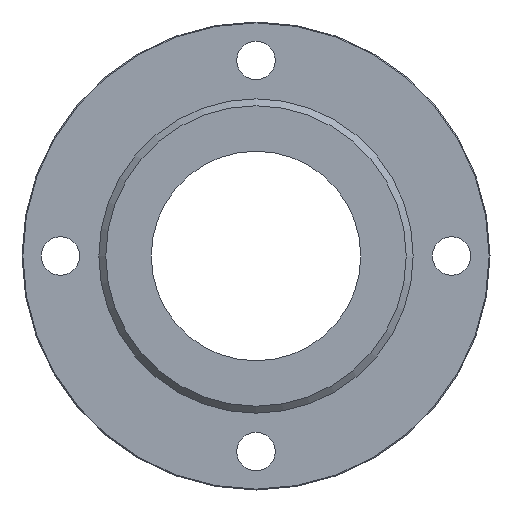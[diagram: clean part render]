
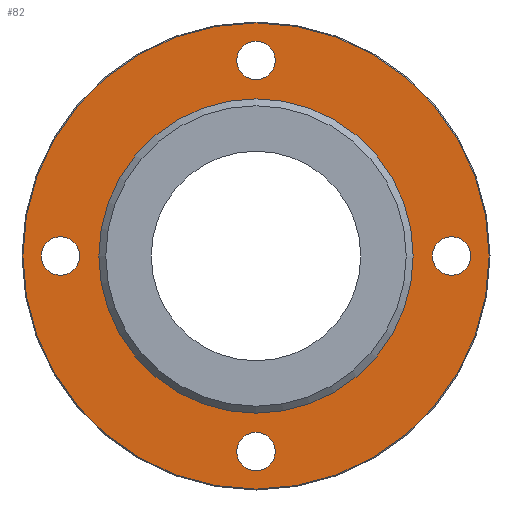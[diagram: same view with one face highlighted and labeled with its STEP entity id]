
A CAD part, left-side view. The second image highlights one B-rep face of the part: STEP entity #82.
In plain terms, the highlighted planar face has unit normal (-1, 0, 0).
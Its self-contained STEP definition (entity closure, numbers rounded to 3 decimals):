
#82=ADVANCED_FACE('',(#125,#126,#127,#128,#129,#130),#131,.F.);
#125=FACE_BOUND('',#205,.T.);
#126=FACE_BOUND('',#206,.T.);
#127=FACE_BOUND('',#207,.T.);
#128=FACE_BOUND('',#208,.T.);
#129=FACE_BOUND('',#209,.T.);
#130=FACE_OUTER_BOUND('',#210,.T.);
#131=PLANE('',#211);
#205=EDGE_LOOP('',(#299));
#206=EDGE_LOOP('',(#300));
#207=EDGE_LOOP('',(#301));
#208=EDGE_LOOP('',(#302));
#209=EDGE_LOOP('',(#303));
#210=EDGE_LOOP('',(#304));
#211=AXIS2_PLACEMENT_3D('',#305,#306,#307);
#299=ORIENTED_EDGE('',*,*,#391,.T.);
#300=ORIENTED_EDGE('',*,*,#401,.T.);
#301=ORIENTED_EDGE('',*,*,#402,.T.);
#302=ORIENTED_EDGE('',*,*,#403,.T.);
#303=ORIENTED_EDGE('',*,*,#404,.T.);
#304=ORIENTED_EDGE('',*,*,#405,.F.);
#305=CARTESIAN_POINT('',(-24.0,45.0,0.0));
#306=DIRECTION('',(1.0,0.0,0.0));
#307=DIRECTION('',(0.0,0.0,-1.0));
#391=EDGE_CURVE('',#422,#422,#423,.T.);
#401=EDGE_CURVE('',#442,#442,#443,.T.);
#402=EDGE_CURVE('',#444,#444,#445,.T.);
#403=EDGE_CURVE('',#446,#446,#447,.T.);
#404=EDGE_CURVE('',#448,#448,#449,.T.);
#405=EDGE_CURVE('',#450,#450,#451,.T.);
#422=VERTEX_POINT('',#478);
#423=CIRCLE('',#479,45.0);
#442=VERTEX_POINT('',#498);
#443=CIRCLE('',#499,5.5);
#444=VERTEX_POINT('',#500);
#445=CIRCLE('',#501,5.5);
#446=VERTEX_POINT('',#502);
#447=CIRCLE('',#503,5.5);
#448=VERTEX_POINT('',#504);
#449=CIRCLE('',#505,5.5);
#450=VERTEX_POINT('',#506);
#451=CIRCLE('',#507,66.746);
#478=CARTESIAN_POINT('',(-24.0,0.0,-45.0));
#479=AXIS2_PLACEMENT_3D('',#537,#538,#539);
#498=CARTESIAN_POINT('',(-24.0,0.0,50.5));
#499=AXIS2_PLACEMENT_3D('',#567,#568,#569);
#500=CARTESIAN_POINT('',(-24.0,-56.0,-5.5));
#501=AXIS2_PLACEMENT_3D('',#570,#571,#572);
#502=CARTESIAN_POINT('',(-24.0,0.0,-61.5));
#503=AXIS2_PLACEMENT_3D('',#573,#574,#575);
#504=CARTESIAN_POINT('',(-24.0,56.0,-5.5));
#505=AXIS2_PLACEMENT_3D('',#576,#577,#578);
#506=CARTESIAN_POINT('',(-24.0,0.0,-66.746));
#507=AXIS2_PLACEMENT_3D('',#579,#580,#581);
#537=CARTESIAN_POINT('',(-24.0,0.0,0.0));
#538=DIRECTION('',(1.0,0.0,0.0));
#539=DIRECTION('',(0.0,0.0,-1.0));
#567=CARTESIAN_POINT('',(-24.0,0.0,56.0));
#568=DIRECTION('',(1.0,0.0,0.0));
#569=DIRECTION('',(0.0,0.0,-1.0));
#570=CARTESIAN_POINT('',(-24.0,-56.0,0.0));
#571=DIRECTION('',(1.0,0.0,0.0));
#572=DIRECTION('',(0.0,0.0,-1.0));
#573=CARTESIAN_POINT('',(-24.0,0.0,-56.0));
#574=DIRECTION('',(1.0,0.0,0.0));
#575=DIRECTION('',(0.0,0.0,-1.0));
#576=CARTESIAN_POINT('',(-24.0,56.0,0.0));
#577=DIRECTION('',(1.0,0.0,0.0));
#578=DIRECTION('',(0.0,0.0,-1.0));
#579=CARTESIAN_POINT('',(-24.0,0.0,0.0));
#580=DIRECTION('',(1.0,0.0,0.0));
#581=DIRECTION('',(0.0,0.0,-1.0));
